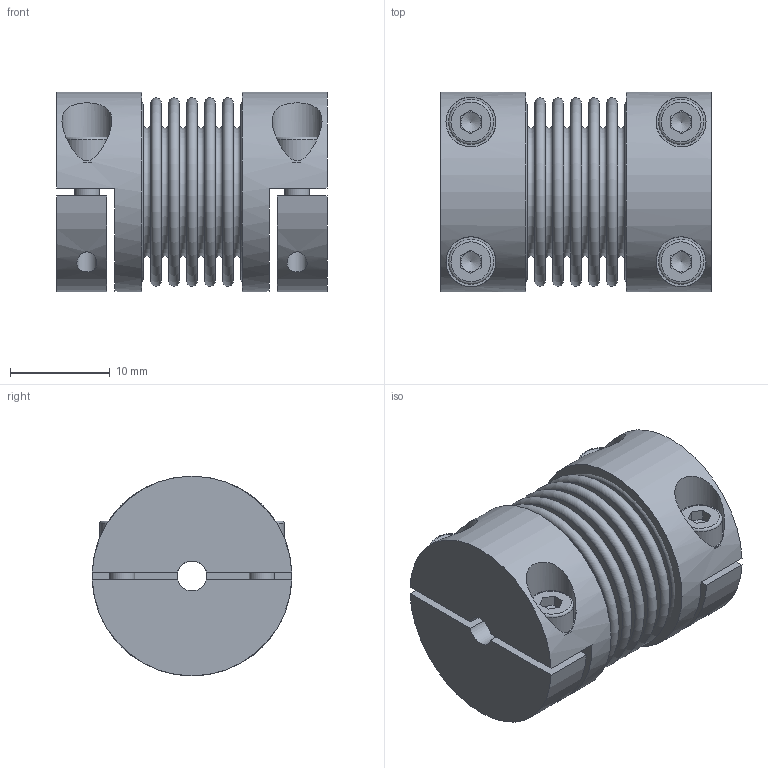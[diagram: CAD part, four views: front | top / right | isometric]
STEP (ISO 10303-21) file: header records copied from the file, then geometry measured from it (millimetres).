
FILE_DESCRIPTION( ( 'Unknown' ), '1' );
FILE_NAME( 'K:/Konstruktion/KB2H/KB2H-15-26.stp', 'Unknown', ( 'Unknown' ), ( 'Unknown' ), 'PSStep 16.0.42', 'Unknown', ' ' );
FILE_SCHEMA( ( 'AUTOMOTIVE_DESIGN { 1 0 10303 214 1 1 1 1 }' ) );
Length unit declared in the file: millimetre
Products named in the file (5): Assem1; KNH-15; BK15_Standard_0; Socket Head Cap Screw_DIN_DIN 912 M2.5 x 8 --- 8N_1
Assembly tree (9 placements, depth 2):
  Assem1
    KNH-15  x2
    KNH-15  x2
    BK15_Standard_0
    Socket Head Cap Screw_DIN_DIN 912 M2.5 x 8 --- 8N_1  x4
Bounding box: 27.05 x 20 x 20 mm (x, y, z)
Volume: 5009.6 mm3; surface area: 8747.1 mm2
Topology: 9 solids, 9 shells, 182 faces, 368 edges, 234 vertices
Faces by surface type: plane 108, torus 34, cylinder 32, cone 8
Full cylindrical faces by diameter (mm): 2.013 x4, 2.5 x4, 2.8 x4, 3 x2, 4.5 x4, 5 x4, 18 x2, 18.3 x2, 20 x2
Entity records: 3338 total; most frequent: CARTESIAN_POINT 559, DIRECTION 430, ORIENTED_EDGE 262, AXIS2_PLACEMENT_3D 195, EDGE_LOOP 180, FACE_OUTER_BOUND 140, EDGE_CURVE 131, VERTEX_POINT 122
